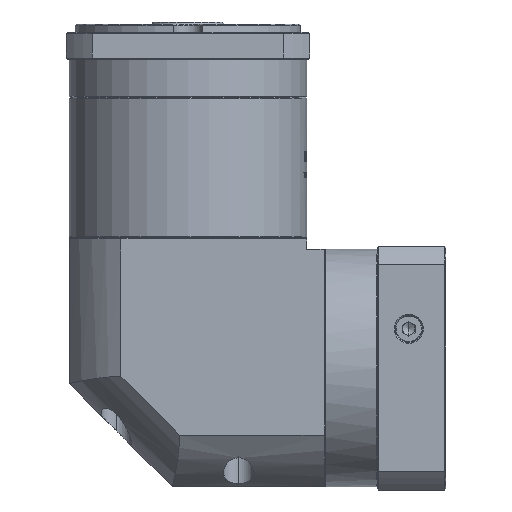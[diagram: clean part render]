
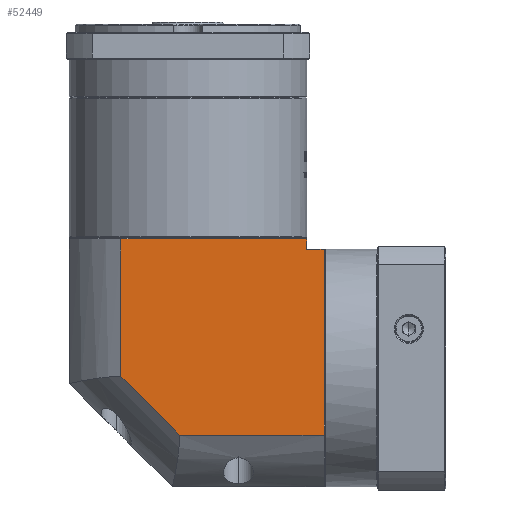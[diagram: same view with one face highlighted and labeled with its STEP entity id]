
A CAD part, left-side view. The second image highlights one B-rep face of the part: STEP entity #52449.
In plain terms, the highlighted planar face has unit normal (-1, 0, 0).
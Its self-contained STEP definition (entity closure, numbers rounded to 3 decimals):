
#1298 = VERTEX_POINT ( 'NONE', #144073 ) ;
#12106 = ORIENTED_EDGE ( 'NONE', *, *, #77391, .F. ) ;
#12297 = ORIENTED_EDGE ( 'NONE', *, *, #163916, .F. ) ;
#13934 = CARTESIAN_POINT ( 'NONE',  ( -255.935, -99.57, 92.325 ) ) ;
#14070 = VECTOR ( 'NONE', #106797, 1000. ) ;
#17200 = DIRECTION ( 'NONE',  ( 1., 0., 0. ) ) ;
#21195 = DIRECTION ( 'NONE',  ( 0., -1., 0. ) ) ;
#23341 = VECTOR ( 'NONE', #21195, 1000. ) ;
#23362 = EDGE_CURVE ( 'NONE', #75709, #35903, #35848, .T. ) ;
#26278 = VERTEX_POINT ( 'NONE', #62836 ) ;
#35300 = EDGE_CURVE ( 'NONE', #46894, #65961, #70616, .T. ) ;
#35798 = CARTESIAN_POINT ( 'NONE',  ( -255.935, -99.57, 80.825 ) ) ;
#35848 = LINE ( 'NONE', #157936, #14070 ) ;
#35903 = VERTEX_POINT ( 'NONE', #101050 ) ;
#38926 = VECTOR ( 'NONE', #50481, 1000. ) ;
#41236 = ORIENTED_EDGE ( 'NONE', *, *, #23362, .F. ) ;
#42157 = ORIENTED_EDGE ( 'NONE', *, *, #53553, .T. ) ;
#46657 = CARTESIAN_POINT ( 'NONE',  ( -255.935, 23.83, 85.825 ) ) ;
#46894 = VERTEX_POINT ( 'NONE', #35798 ) ;
#47781 = VERTEX_POINT ( 'NONE', #100478 ) ;
#49615 = EDGE_CURVE ( 'NONE', #46894, #1298, #147641, .T. ) ;
#50481 = DIRECTION ( 'NONE',  ( 0., 0., -1. ) ) ;
#52449 = ADVANCED_FACE ( 'NONE', ( #82718 ), #106719, .F. ) ;
#53553 = EDGE_CURVE ( 'NONE', #1298, #26278, #70578, .T. ) ;
#54291 = DIRECTION ( 'NONE',  ( 0., 1., 0. ) ) ;
#57010 = LINE ( 'NONE', #46657, #23341 ) ;
#58473 = AXIS2_PLACEMENT_3D ( 'NONE', #68116, #17200, #144548 ) ;
#62836 = CARTESIAN_POINT ( 'NONE',  ( -255.935, -91.17, 85.825 ) ) ;
#65961 = VERTEX_POINT ( 'NONE', #152360 ) ;
#66436 = CARTESIAN_POINT ( 'NONE',  ( -255.935, 23.83, -9.075 ) ) ;
#67885 = ORIENTED_EDGE ( 'NONE', *, *, #35300, .F. ) ;
#68116 = CARTESIAN_POINT ( 'NONE',  ( -255.935, 23.83, 92.325 ) ) ;
#69376 = DIRECTION ( 'NONE',  ( 0., 1., 0. ) ) ;
#70017 = LINE ( 'NONE', #66436, #81896 ) ;
#70578 = LINE ( 'NONE', #135266, #134024 ) ;
#70616 = LINE ( 'NONE', #13934, #38926 ) ;
#73070 = VECTOR ( 'NONE', #134181, 1000. ) ;
#75709 = VERTEX_POINT ( 'NONE', #123847 ) ;
#77391 = EDGE_CURVE ( 'NONE', #35903, #47781, #122681, .T. ) ;
#81896 = VECTOR ( 'NONE', #54291, 1000. ) ;
#82718 = FACE_OUTER_BOUND ( 'NONE', #118405, .T. ) ;
#82720 = ORIENTED_EDGE ( 'NONE', *, *, #49615, .T. ) ;
#100478 = CARTESIAN_POINT ( 'NONE',  ( -255.935, -1.271, 85.825 ) ) ;
#101050 = CARTESIAN_POINT ( 'NONE',  ( -255.935, -1.271, 19.263 ) ) ;
#106719 = PLANE ( 'NONE',  #58473 ) ;
#106797 = DIRECTION ( 'NONE',  ( 0., 0.707, 0.707 ) ) ;
#118405 = EDGE_LOOP ( 'NONE', ( #12106, #41236, #12297, #67885, #82720, #42157, #128640 ) ) ;
#119729 = CARTESIAN_POINT ( 'NONE',  ( -255.935, -91.17, 80.825 ) ) ;
#122681 = LINE ( 'NONE', #145865, #73070 ) ;
#123847 = CARTESIAN_POINT ( 'NONE',  ( -255.935, -29.609, -9.075 ) ) ;
#128640 = ORIENTED_EDGE ( 'NONE', *, *, #144500, .F. ) ;
#134024 = VECTOR ( 'NONE', #149135, 1000. ) ;
#134181 = DIRECTION ( 'NONE',  ( 0., 0., 1. ) ) ;
#135266 = CARTESIAN_POINT ( 'NONE',  ( -255.935, -91.17, -34.175 ) ) ;
#144073 = CARTESIAN_POINT ( 'NONE',  ( -255.935, -91.17, 80.825 ) ) ;
#144500 = EDGE_CURVE ( 'NONE', #47781, #26278, #57010, .T. ) ;
#144548 = DIRECTION ( 'NONE',  ( 0., 1., 0. ) ) ;
#145865 = CARTESIAN_POINT ( 'NONE',  ( -255.935, -1.271, 92.325 ) ) ;
#147641 = LINE ( 'NONE', #119729, #155623 ) ;
#149135 = DIRECTION ( 'NONE',  ( 0., 0., 1. ) ) ;
#152360 = CARTESIAN_POINT ( 'NONE',  ( -255.935, -99.57, -9.075 ) ) ;
#155623 = VECTOR ( 'NONE', #69376, 1000. ) ;
#157936 = CARTESIAN_POINT ( 'NONE',  ( -255.935, -29.609, -9.075 ) ) ;
#163916 = EDGE_CURVE ( 'NONE', #65961, #75709, #70017, .T. ) ;
